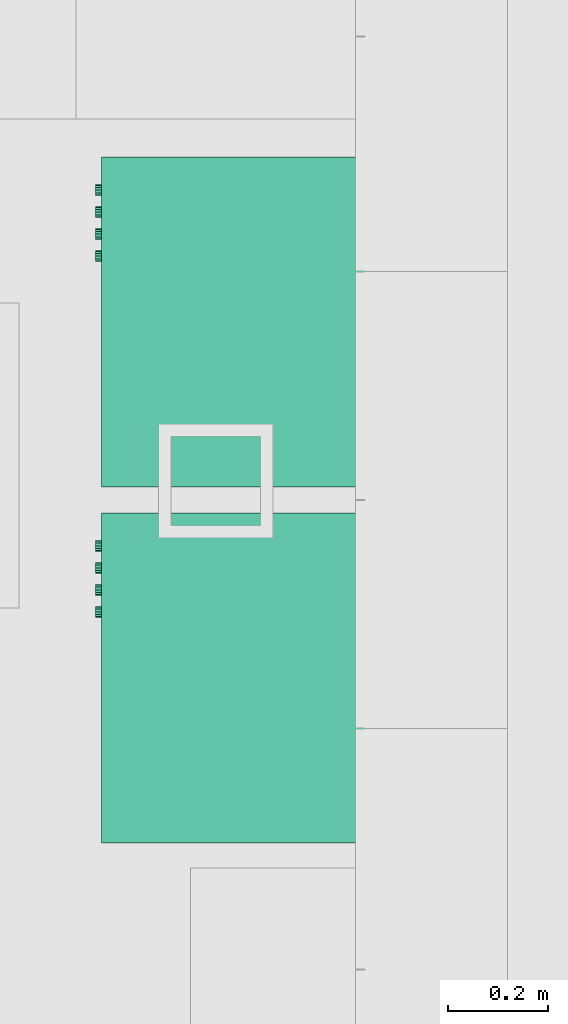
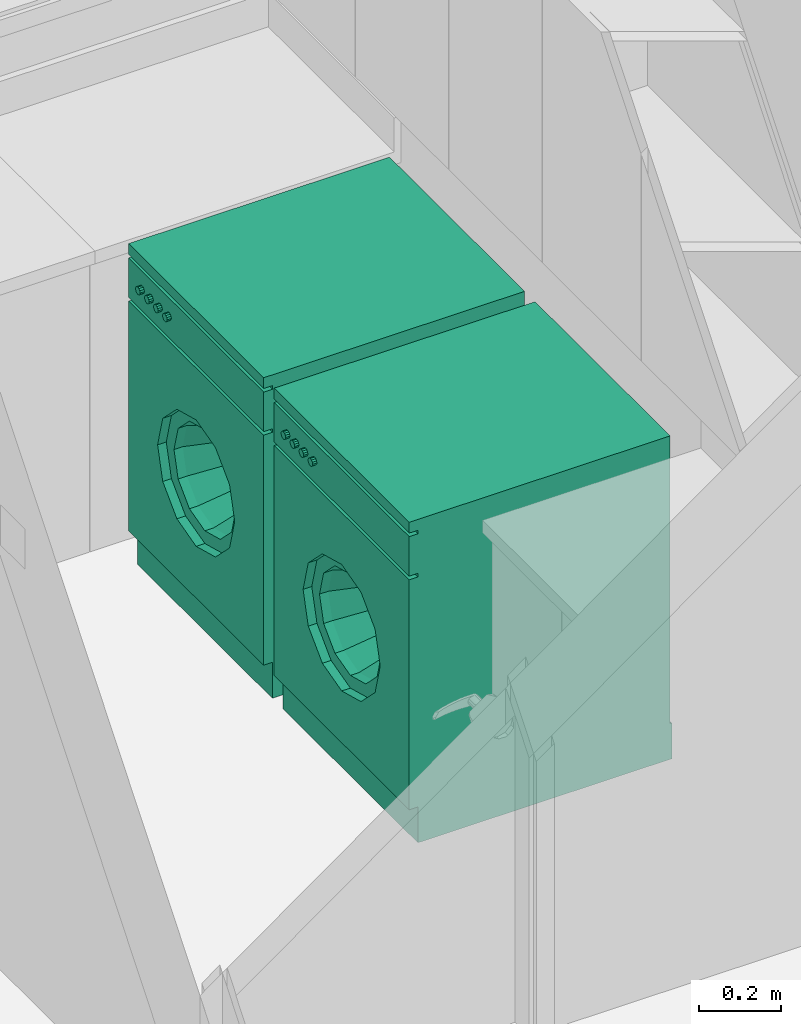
# One storey, part 9 of 103: 2 distribution flow elements.
"""IFC2X3 building model written with IfcOpenShell, lengths in inches."""

import ifcopenshell
import ifcopenshell.guid

model = None  # the IFC model being written
_history = None  # IfcOwnerHistory: only IFC2X3 demands one
_inside = {}  # id of a spatial element -> (the spatial element, [elements in it])
_under = {}  # id of a project, library or spatial element -> (it, [spatial elements below it])
_declared = {}  # id of a project -> (the project, [libraries it declares])
_typed = {}  # id of a type object -> (the type object, [elements of that type])
_made_of = {}  # id of a material, layer set ... -> (it, [elements and type objects made of it])


def new_model(schema):
    """Start an empty IFC model of exactly this schema.

    Asked for "IFC4X3", IfcOpenShell would pick the latest addendum, in which some entities
    have other attributes; the version numbers below select the first issue.
    IFC2X3 requires an IfcOwnerHistory on every rooted entity: one is made here for all.
    """
    global model, _history
    if schema == "IFC4X3":
        model = ifcopenshell.file(schema_version=(4, 3, 0, 0))
    else:
        model = ifcopenshell.file(schema=schema)
    _inside.clear()
    _under.clear()
    _declared.clear()
    _typed.clear()
    _made_of.clear()
    _history = None
    if model.schema == "IFC2X3":
        org = make("IfcOrganization", Name="unknown")
        user = make(
            "IfcPersonAndOrganization",
            ThePerson=make("IfcPerson", FamilyName="unknown"),
            TheOrganization=org,
        )
        app = make(
            "IfcApplication",
            ApplicationDeveloper=org,
            Version="unknown",
            ApplicationFullName="unknown",
            ApplicationIdentifier="unknown",
        )
        _history = make(
            "IfcOwnerHistory",
            OwningUser=user,
            OwningApplication=app,
            ChangeAction="ADDED",
            CreationDate=0,
        )
    return model


def make(cls, **values):
    """One entity of the class cls with the attributes given. An attribute that is None is left unset."""
    return model.create_entity(
        cls, **{name: value for name, value in values.items() if value is not None}
    )


def entity(cls, *values):
    """Any entity or typed value of the class cls, its attributes in the order of the schema. None: left unset."""
    e = model.create_entity(cls)
    for i, value in enumerate(values):
        if value is not None:
            e[i] = value
    return e


def rooted(cls, **values):
    """An entity with a GlobalId (a new one), such as an element, a storey or a relation."""
    return make(cls, GlobalId=ifcopenshell.guid.new(), OwnerHistory=_history, **values)


def si_unit(unit_type, name, prefix=None):
    """IfcSIUnit, for example si_unit("LENGTHUNIT", "METRE", prefix="MILLI")."""
    return make("IfcSIUnit", UnitType=unit_type, Prefix=prefix, Name=name)


def converted_unit(unit_type, name, factor, base, dimensions=None, offset=None):
    """IfcConversionBasedUnit, such as the inch: factor (a typed value) times the base unit."""
    return make(
        "IfcConversionBasedUnit"
        if offset is None
        else "IfcConversionBasedUnitWithOffset",
        ConversionOffset=offset,
        Dimensions=None
        if dimensions is None
        else entity("IfcDimensionalExponents", *dimensions),
        UnitType=unit_type,
        Name=name,
        ConversionFactor=make(
            "IfcMeasureWithUnit", ValueComponent=factor, UnitComponent=base
        ),
    )


def derived_unit(unit_type, elements):
    """IfcDerivedUnit: a product of units, each with its exponent."""
    return make(
        "IfcDerivedUnit",
        Elements=[
            make("IfcDerivedUnitElement", Unit=unit, Exponent=power)
            for unit, power in elements
        ],
        UnitType=unit_type,
    )


def money_unit(currency):
    """IfcMonetaryUnit."""
    return make("IfcMonetaryUnit", Currency=currency)


def assignment(units):
    """IfcUnitAssignment: the units of a project."""
    return None if units is None else make("IfcUnitAssignment", Units=units)


def point(xyz):
    """IfcCartesianPoint."""
    return None if xyz is None else make("IfcCartesianPoint", Coordinates=xyz)


def direction(xyz):
    """IfcDirection."""
    return None if xyz is None else make("IfcDirection", DirectionRatios=xyz)


def frame(location, z_axis=None, x_axis=None):
    """IfcAxis2Placement3D, a coordinate frame: its origin and axes. An axis left out is left unset."""
    return make(
        "IfcAxis2Placement3D",
        Location=point(location),
        Axis=direction(z_axis),
        RefDirection=direction(x_axis),
    )


def origin_with_axes():
    """The frame at (0, 0, 0) with the z axis (0, 0, 1) and the x axis (1, 0, 0) written out."""
    return frame((0.0, 0.0, 0.0), z_axis=(0.0, 0.0, 1.0), x_axis=(1.0, 0.0, 0.0))


def place(relative_to, where):
    """IfcLocalPlacement: puts the frame where relative to a parent placement (None: the world)."""
    return make(
        "IfcLocalPlacement", PlacementRelTo=relative_to, RelativePlacement=where
    )


def context(
    kind, dimensions, precision=None, world=None, true_north=None, identifier=None
):
    """IfcGeometricRepresentationContext, for example the 3D "Model" context."""
    return make(
        "IfcGeometricRepresentationContext",
        ContextIdentifier=identifier,
        ContextType=kind,
        CoordinateSpaceDimension=dimensions,
        Precision=precision,
        WorldCoordinateSystem=world,
        TrueNorth=true_north,
    )


def subcontext(parent, identifier, kind, view, scale=None):
    """IfcGeometricRepresentationSubContext, for example "Body" below "Model"."""
    return make(
        "IfcGeometricRepresentationSubContext",
        ContextIdentifier=identifier,
        ContextType=kind,
        ParentContext=parent,
        TargetScale=scale,
        TargetView=view,
    )


def project(units=None, contexts=None):
    """IfcProject with its units and contexts."""
    return rooted(
        "IfcProject",
        Name="project",
        RepresentationContexts=contexts,
        UnitsInContext=assignment(units),
    )


def spatial(cls, under=None, at=None, **own):
    """A site, building, storey or space (cls), placed at a placement, below another one or the project."""
    s = rooted(cls, ObjectPlacement=at, **own)
    if under is not None:
        _under.setdefault(under.id(), (under, []))[1].append(s)
    return s


def faces_of(points, faces, orient=None, outer=None):
    """IfcFace entities. A face is a list of loops; a loop is a list of indices into points, from 0.

    orient and outer hold one flag for each loop. By default every Orientation is true, the
    first loop of a face is its IfcFaceOuterBound and the others are IfcFaceBound.
    """
    made = []
    for i, loops in enumerate(faces):
        bounds = []
        for j, loop in enumerate(loops):
            is_outer = j == 0 if outer is None else outer[i][j]
            bounds.append(
                make(
                    "IfcFaceOuterBound" if is_outer else "IfcFaceBound",
                    Bound=make("IfcPolyLoop", Polygon=[points[k] for k in loop]),
                    Orientation=True if orient is None else orient[i][j],
                )
            )
        made.append(make("IfcFace", Bounds=bounds))
    return made


def open_shell(faces, orient=None, outer=None):
    """The faces of one IfcOpenShell. surface_model builds it on its shared points."""
    return ("IfcOpenShell", faces, orient, outer)


def faceted_brep(points, faces, orient=None, outer=None, voids=None):
    """IfcFacetedBrep: a solid bounded by flat faces; with voids (closed shells), ...WithVoids."""
    shared = [point(p) for p in points]
    hull = make("IfcClosedShell", CfsFaces=faces_of(shared, faces, orient, outer))
    if voids is None:
        return make("IfcFacetedBrep", Outer=hull)
    return make(
        "IfcFacetedBrepWithVoids",
        Outer=hull,
        Voids=[
            make(cls, CfsFaces=faces_of(shared, fs, o, b)) for cls, fs, o, b in voids
        ],
    )


def surface_model(cls, points, shells):
    """IfcFaceBasedSurfaceModel or IfcShellBasedSurfaceModel (cls): surfaces that need not close."""
    shared = [point(p) for p in points]
    made = [make(c, CfsFaces=faces_of(shared, fs, o, b)) for c, fs, o, b in shells]
    if cls == "IfcFaceBasedSurfaceModel":
        return make(cls, FbsmFaces=made)
    return make(cls, SbsmBoundary=made)


def shape(context_of_items, identifier, shape_type, items):
    """IfcShapeRepresentation: the items that make up one representation, for example the "Body"."""
    return make(
        "IfcShapeRepresentation",
        ContextOfItems=context_of_items,
        RepresentationIdentifier=identifier,
        RepresentationType=shape_type,
        Items=items,
    )


def source(mapping_origin, context_of_items, identifier, shape_type, items):
    """IfcRepresentationMap: a shape defined once, which mapped items show again and again."""
    return make(
        "IfcRepresentationMap",
        MappingOrigin=mapping_origin,
        MappedRepresentation=shape(context_of_items, identifier, shape_type, items),
    )


def transform(
    local_origin,
    x_axis=None,
    y_axis=None,
    z_axis=None,
    scale=None,
    scale2=None,
    scale3=None,
    uniform=True,
):
    """IfcCartesianTransformationOperator3D, or its non-uniform kind. x_axis, y_axis, z_axis: its Axis1, 2, 3."""
    if uniform:
        return make(
            "IfcCartesianTransformationOperator3D",
            Axis1=direction(x_axis),
            Axis2=direction(y_axis),
            LocalOrigin=point(local_origin),
            Scale=scale,
            Axis3=direction(z_axis),
        )
    return make(
        "IfcCartesianTransformationOperator3DnonUniform",
        Axis1=direction(x_axis),
        Axis2=direction(y_axis),
        LocalOrigin=point(local_origin),
        Scale=scale,
        Axis3=direction(z_axis),
        Scale2=scale2,
        Scale3=scale3,
    )


def mapped(mapping_source, mapping_target):
    """IfcMappedItem: shows the shape of a source again, moved by a transform."""
    return make(
        "IfcMappedItem", MappingSource=mapping_source, MappingTarget=mapping_target
    )


def made_of(thing, what):
    """Note that an element or type object is made of a material, layer set ...; save() writes the relation."""
    if what is not None:
        _made_of.setdefault(what.id(), (what, []))[1].append(thing)
    return thing


def type_object(cls, material=None, **own):
    """A type object (cls), such as IfcWallType, which elements share."""
    return made_of(rooted(cls, **own), material)


def element(
    cls,
    number,
    at=None,
    inside=None,
    cuts=None,
    type_object=None,
    material=None,
    context=None,
    identifier="Body",
    shape_type=None,
    held_by="IfcProductDefinitionShape",
    body=None,
    shapes=None,
    **own,
):
    """One element of the class cls, such as IfcWall. Its Tag is "e" and its number.

    at: its placement. inside: the storey or other place that contains it. cuts: it is an
    opening in that element (IfcRelVoidsElement). A single representation is given by context,
    identifier, shape_type and body (its items); several are given by shapes. held_by: the class
    of the entity that holds the representations. save() writes the other relations.
    """
    e = rooted(cls, Tag="e%d" % number, ObjectPlacement=at, **own)
    if body is not None:
        shapes = [shape(context, identifier, shape_type, body)]
    if shapes is not None:
        e.Representation = make(held_by, Representations=shapes)
    if inside is not None:
        _inside.setdefault(inside.id(), (inside, []))[1].append(e)
    if cuts is not None:
        rooted(
            "IfcRelVoidsElement", RelatingBuildingElement=cuts, RelatedOpeningElement=e
        )
    if type_object is not None:
        _typed.setdefault(type_object.id(), (type_object, []))[1].append(e)
    return made_of(e, material)


def aggregate(whole, parts):
    """IfcRelAggregates: a whole, such as a stair, and the parts it consists of."""
    return rooted("IfcRelAggregates", RelatingObject=whole, RelatedObjects=parts)


def save(model, path):
    """Write the relations noted so far, then the file.

    IfcRelAggregates (storeys below a building ...), IfcRelContainedInSpatialStructure (elements
    in a storey), IfcRelDefinesByType, IfcRelAssociatesMaterial and IfcRelDeclares: one each for
    every whole, place, type object, material and project.
    """
    for whole, parts in _under.values():
        aggregate(whole, parts)
    for where, things in _inside.values():
        rooted(
            "IfcRelContainedInSpatialStructure",
            RelatedElements=things,
            RelatingStructure=where,
        )
    for kind, things in _typed.values():
        rooted("IfcRelDefinesByType", RelatedObjects=things, RelatingType=kind)
    for what, things in _made_of.values():
        rooted("IfcRelAssociatesMaterial", RelatedObjects=things, RelatingMaterial=what)
    for by, libraries in _declared.values():
        rooted("IfcRelDeclares", RelatingContext=by, RelatedDefinitions=libraries)
    model.write(path)


model = new_model("IFC2X3")

# Units and contexts
model_context = context("Model", 3, precision=0.00039370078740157, world=origin_with_axes(), true_north=direction((0.0, 1.0)))
plan_context = context("Plan", 3, precision=0.00039370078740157, world=origin_with_axes(), true_north=direction((0.0, 1.0)))
body_context = subcontext(model_context, "Body", "Model", "MODEL_VIEW")
ifc_project = project(units=[converted_unit("LENGTHUNIT", "INCH", entity("IfcPositiveLengthMeasure", 0.0254), si_unit("LENGTHUNIT", "METRE"), dimensions=[1, 0, 0, 0, 0, 0, 0]), converted_unit("AREAUNIT", "SQUARE_FOOT", entity("IfcPositiveLengthMeasure", 0.09290304), si_unit("AREAUNIT", "SQUARE_METRE"), dimensions=[2, 0, 0, 0, 0, 0, 0]), si_unit("PLANEANGLEUNIT", "RADIAN"), si_unit("SOLIDANGLEUNIT", "STERADIAN"), money_unit("USD"), converted_unit("TIMEUNIT", "Year", entity("IfcTimeMeasure", 31557600.0), si_unit("TIMEUNIT", "SECOND"), dimensions=[0, 0, 1, 0, 0, 0, 0]), si_unit("MASSUNIT", "GRAM", prefix="KILO"), si_unit("THERMODYNAMICTEMPERATUREUNIT", "DEGREE_CELSIUS"), si_unit("LUMINOUSINTENSITYUNIT", "LUMEN"), si_unit("ENERGYUNIT", "JOULE", prefix="MEGA"), derived_unit("SPECIFICHEATCAPACITYUNIT", [(si_unit("ENERGYUNIT", "JOULE"), 1), (si_unit("MASSUNIT", "GRAM", prefix="KILO"), -1), (si_unit("THERMODYNAMICTEMPERATUREUNIT", "KELVIN"), -1)])], contexts=[model_context, plan_context])

# Site, building, storey
site_placement = place(None, origin_with_axes())
site = spatial("IfcSite", under=ifc_project, at=site_placement, Name="Site", CompositionType="ELEMENT")
building_placement = place(site_placement, origin_with_axes())
building = spatial("IfcBuilding", under=site, at=building_placement, Name="Building", CompositionType="ELEMENT")
storey_placement = place(building_placement, frame((0.0, 0.0, 127.9999999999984), z_axis=(0.0, 0.0, 1.0), x_axis=(1.0, 0.0, 0.0)))
storey = spatial("IfcBuildingStorey", under=building, at=storey_placement, Name="Second Floor", CompositionType="ELEMENT", Elevation=128.0)

# Distribution flow elements
valve_type = type_object("IfcValveType", Name="Washer", PredefinedType="NOTDEFINED")
shared_shape = source(origin_with_axes(), body_context, "Body", "SurfaceModel", [
    faceted_brep([(-12.99999999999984, -28.03333333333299, 4.22222222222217), (12.99999999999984, -28.03333333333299, 4.22222222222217), (12.99999999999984, -28.99999999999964, 4.22222222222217), (-12.99999999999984, -28.99999999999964, 4.22222222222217), (-12.99999999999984, -28.03333333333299, 31.24444444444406), (12.99999999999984, -28.03333333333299, 31.24444444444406), (7.428571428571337, -28.03333333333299, 17.73333333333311), (6.433331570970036, -28.03333333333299, 21.44761904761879), (3.71428571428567, -28.03333333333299, 24.16666490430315), (0.0, -28.03333333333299, 25.16190476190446), (-3.714285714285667, -28.03333333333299, 24.16666490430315), (-6.433331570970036, -28.03333333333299, 21.44761904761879), (-7.428571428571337, -28.03333333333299, 17.73333333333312), (-6.433331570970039, -28.03333333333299, 14.01904761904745), (-3.714285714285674, -28.03333333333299, 11.30000176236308), (0.0, -28.03333333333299, 10.30476190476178), (3.714285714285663, -28.03333333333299, 11.30000176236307), (6.433331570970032, -28.03333333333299, 14.01904761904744), (12.99999999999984, -28.99999999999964, 31.24444444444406), (-12.99999999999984, -28.99999999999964, 31.24444444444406), (7.428571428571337, -28.99999999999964, 17.73333333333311), (6.433331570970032, -28.99999999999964, 14.01904761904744), (3.714285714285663, -28.99999999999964, 11.30000176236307), (0.0, -28.99999999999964, 10.30476190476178), (-3.714285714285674, -28.99999999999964, 11.30000176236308), (-6.433331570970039, -28.99999999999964, 14.01904761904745), (-7.428571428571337, -28.99999999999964, 17.73333333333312), (-6.433331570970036, -28.99999999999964, 21.44761904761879), (-3.714285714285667, -28.99999999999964, 24.16666490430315), (0.0, -28.99999999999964, 25.16190476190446), (3.71428571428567, -28.99999999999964, 24.16666490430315), (6.433331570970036, -28.99999999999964, 21.44761904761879)], [[[0, 1, 2, 3]], [[0, 4, 5, 1], [6, 7, 8, 9, 10, 11, 12, 13, 14, 15, 16, 17]], [[1, 5, 18, 2]], [[3, 2, 18, 19], [20, 21, 22, 23, 24, 25, 26, 27, 28, 29, 30, 31]], [[4, 0, 3, 19]], [[5, 4, 19, 18]], [[7, 6, 20, 31]], [[8, 7, 31, 30]], [[9, 8, 30, 29]], [[10, 9, 29, 28]], [[11, 10, 28, 27]], [[12, 11, 27, 26]], [[13, 12, 26, 25]], [[14, 13, 25, 24]], [[15, 14, 24, 23]], [[16, 15, 23, 22]], [[17, 16, 22, 21]], [[6, 17, 21, 20]]]),
    faceted_brep([(7.428571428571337, -27.06666666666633, 17.73333333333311), (6.433331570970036, -27.06666666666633, 21.44761904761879), (6.433331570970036, -28.03333333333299, 21.44761904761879), (7.428571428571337, -28.03333333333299, 17.73333333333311), (6.433331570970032, -27.06666666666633, 14.01904761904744), (3.714285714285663, -27.06666666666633, 11.30000176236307), (0.0, -27.06666666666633, 10.30476190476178), (-3.714285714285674, -27.06666666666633, 11.30000176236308), (-6.433331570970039, -27.06666666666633, 14.01904761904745), (-7.428571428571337, -27.06666666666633, 17.73333333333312), (-6.433331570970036, -27.06666666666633, 21.44761904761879), (-3.714285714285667, -27.06666666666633, 24.16666490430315), (0.0, -27.06666666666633, 25.16190476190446), (3.71428571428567, -27.06666666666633, 24.16666490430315), (5.94285714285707, -27.06666666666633, 17.73333333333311), (5.14666525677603, -27.06666666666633, 20.70476190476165), (2.971428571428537, -27.06666666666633, 22.87999859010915), (0.0, -27.06666666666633, 23.67619047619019), (-2.971428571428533, -27.06666666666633, 22.87999859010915), (-5.146665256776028, -27.06666666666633, 20.70476190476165), (-5.94285714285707, -27.06666666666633, 17.73333333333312), (-5.146665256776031, -27.06666666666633, 14.76190476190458), (-2.97142857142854, -27.06666666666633, 12.58666807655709), (0.0, -27.06666666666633, 11.79047619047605), (2.971428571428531, -27.06666666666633, 12.58666807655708), (5.146665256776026, -27.06666666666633, 14.76190476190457), (3.71428571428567, -28.03333333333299, 24.16666490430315), (0.0, -28.03333333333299, 25.16190476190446), (-3.714285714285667, -28.03333333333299, 24.16666490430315), (-6.433331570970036, -28.03333333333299, 21.44761904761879), (-7.428571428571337, -28.03333333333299, 17.73333333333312), (-6.433331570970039, -28.03333333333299, 14.01904761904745), (-3.714285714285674, -28.03333333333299, 11.30000176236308), (0.0, -28.03333333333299, 10.30476190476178), (3.714285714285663, -28.03333333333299, 11.30000176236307), (6.433331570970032, -28.03333333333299, 14.01904761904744), (5.94285714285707, -28.03333333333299, 17.73333333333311), (5.146665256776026, -28.03333333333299, 14.76190476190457), (2.971428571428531, -28.03333333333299, 12.58666807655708), (0.0, -28.03333333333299, 11.79047619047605), (-2.97142857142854, -28.03333333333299, 12.58666807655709), (-5.146665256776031, -28.03333333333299, 14.76190476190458), (-5.94285714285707, -28.03333333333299, 17.73333333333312), (-5.146665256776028, -28.03333333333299, 20.70476190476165), (-2.971428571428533, -28.03333333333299, 22.87999859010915), (0.0, -28.03333333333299, 23.67619047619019), (2.971428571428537, -28.03333333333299, 22.87999859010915), (5.14666525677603, -28.03333333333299, 20.70476190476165)], [[[0, 1, 2, 3]], [[0, 4, 5, 6, 7, 8, 9, 10, 11, 12, 13, 1], [14, 15, 16, 17, 18, 19, 20, 21, 22, 23, 24, 25]], [[1, 13, 26, 2]], [[3, 2, 26, 27, 28, 29, 30, 31, 32, 33, 34, 35], [36, 37, 38, 39, 40, 41, 42, 43, 44, 45, 46, 47]], [[4, 0, 3, 35]], [[5, 4, 35, 34]], [[6, 5, 34, 33]], [[7, 6, 33, 32]], [[8, 7, 32, 31]], [[9, 8, 31, 30]], [[10, 9, 30, 29]], [[11, 10, 29, 28]], [[12, 11, 28, 27]], [[13, 12, 27, 26]], [[15, 14, 36, 47]], [[16, 15, 47, 46]], [[17, 16, 46, 45]], [[18, 17, 45, 44]], [[19, 18, 44, 43]], [[20, 19, 43, 42]], [[21, 20, 42, 41]], [[22, 21, 41, 40]], [[23, 22, 40, 39]], [[24, 23, 39, 38]], [[25, 24, 38, 37]], [[14, 25, 37, 36]]]),
    surface_model("IfcShellBasedSurfaceModel", [(-2.971428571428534, -27.06666666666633, 22.87999859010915), (0.0, -27.06666666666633, 23.67619047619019), (0.0, -22.23333333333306, 22.19047619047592), (-2.228571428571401, -22.23333333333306, 21.59333227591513), (2.971428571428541, -27.06666666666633, 22.87999859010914), (2.228571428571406, -22.23333333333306, 21.59333227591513), (3.859998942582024, -22.23333333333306, 19.96190476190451), (4.457142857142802, -22.23333333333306, 17.73333333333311), (3.859998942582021, -22.23333333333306, 15.50476190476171), (2.228571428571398, -22.23333333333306, 13.87333439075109), (0.0, -22.23333333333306, 13.27619047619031), (-2.228571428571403, -22.23333333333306, 13.8733343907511), (-3.859998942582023, -22.23333333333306, 15.50476190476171), (-4.457142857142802, -22.23333333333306, 17.73333333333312), (-3.859998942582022, -22.23333333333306, 19.96190476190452), (-5.146665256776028, -27.06666666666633, 20.70476190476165), (5.146665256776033, -27.06666666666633, 20.70476190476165), (5.94285714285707, -27.06666666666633, 17.73333333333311), (5.146665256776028, -27.06666666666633, 14.76190476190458), (2.971428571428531, -27.06666666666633, 12.58666807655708), (0.0, -27.06666666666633, 11.79047619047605), (-2.971428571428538, -27.06666666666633, 12.58666807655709), (-5.146665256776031, -27.06666666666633, 14.76190476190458), (-5.94285714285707, -27.06666666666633, 17.73333333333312)], [open_shell([[[0, 1, 2, 3]], [[1, 4, 5, 2]], [[2, 5, 6, 7, 8, 9, 10, 11, 12, 13, 14, 3]], [[15, 0, 3, 14]], [[4, 16, 6, 5]], [[16, 17, 7, 6]], [[17, 18, 8, 7]], [[18, 19, 9, 8]], [[19, 20, 10, 9]], [[20, 21, 11, 10]], [[21, 22, 12, 11]], [[22, 23, 13, 12]], [[23, 15, 14, 13]]])]),
    surface_model("IfcShellBasedSurfaceModel", [(-12.99999999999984, -28.03333333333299, 4.22222222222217), (-12.99999999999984, -28.03333333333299, 36.73333333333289), (-12.99999999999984, 0.0, 36.73333333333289), (-12.99999999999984, 0.0, 4.222222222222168)], [open_shell([[[0, 1, 2, 3]]])]),
    surface_model("IfcShellBasedSurfaceModel", [(12.99999999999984, -28.03333333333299, 4.22222222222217), (12.99999999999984, -28.03333333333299, 36.73333333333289), (12.99999999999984, 0.0, 36.73333333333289), (12.99999999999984, 0.0, 4.222222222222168)], [open_shell([[[0, 1, 2, 3]]])]),
    surface_model("IfcShellBasedSurfaceModel", [(-12.99999999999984, 0.0, 4.22222222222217), (-12.99999999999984, 0.0, 36.73333333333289), (12.99999999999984, 0.0, 36.73333333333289), (12.99999999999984, 0.0, 4.22222222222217)], [open_shell([[[0, 1, 2, 3]]])]),
    faceted_brep([(-12.99999999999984, -28.03333333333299, 0.0), (12.99999999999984, -28.03333333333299, 0.0), (12.99999999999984, -28.03333333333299, 4.22222222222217), (-12.99999999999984, -28.03333333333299, 4.22222222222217), (-12.99999999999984, 0.1792650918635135, 0.0), (12.99999999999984, 0.1792650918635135, 0.0), (12.99999999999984, 0.1792650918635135, 4.22222222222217), (-12.99999999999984, 0.1792650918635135, 4.22222222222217)], [[[0, 1, 2, 3]], [[0, 4, 5, 1]], [[1, 5, 6, 2]], [[3, 2, 6, 7]], [[4, 0, 3, 7]], [[5, 4, 7, 6]]]),
    faceted_brep([(-12.99999999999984, -28.03333333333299, 31.66666666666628), (12.99999999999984, -28.03333333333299, 31.66666666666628), (12.99999999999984, -28.99999999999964, 31.66666666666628), (-12.99999999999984, -28.99999999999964, 31.66666666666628), (-12.99999999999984, -28.03333333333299, 36.31111111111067), (12.99999999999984, -28.03333333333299, 36.31111111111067), (12.99999999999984, -28.99999999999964, 36.31111111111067), (-12.99999999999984, -28.99999999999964, 36.31111111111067)], [[[0, 1, 2, 3]], [[0, 4, 5, 1]], [[1, 5, 6, 2]], [[3, 2, 6, 7]], [[4, 0, 3, 7]], [[5, 4, 7, 6]]]),
    surface_model("IfcShellBasedSurfaceModel", [(-12.99999999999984, -28.03333333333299, 31.24444444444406), (-12.99999999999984, -28.03333333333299, 36.73333333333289), (12.99999999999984, -28.03333333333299, 36.73333333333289), (12.99999999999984, -28.03333333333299, 31.24444444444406)], [open_shell([[[0, 1, 2, 3]]])]),
    faceted_brep([(-12.99999999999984, -28.99999999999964, 36.73333333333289), (12.99999999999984, -28.99999999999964, 36.73333333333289), (12.99999999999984, -28.99999999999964, 37.99999999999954), (-12.99999999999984, -28.99999999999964, 37.99999999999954), (-12.99999999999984, 0.0, 36.73333333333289), (12.99999999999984, 0.0, 36.73333333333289), (12.99999999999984, 0.0, 37.99999999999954), (-12.99999999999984, 0.0, 37.99999999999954)], [[[0, 1, 2, 3]], [[0, 4, 5, 1]], [[1, 5, 6, 2]], [[3, 2, 6, 7]], [[4, 0, 3, 7]], [[5, 4, 7, 6]]]),
    faceted_brep([(-10.02472232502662, -28.99999999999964, 33.98333333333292), (-10.18333333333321, -28.99999999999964, 33.82472232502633), (-10.39999999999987, -28.99999999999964, 33.76666666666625), (-10.61666666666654, -28.99999999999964, 33.82472232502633), (-10.77527767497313, -28.99999999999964, 33.98333333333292), (-10.8333333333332, -28.99999999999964, 34.19999999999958), (-10.77527767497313, -28.99999999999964, 34.41666666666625), (-10.61666666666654, -28.99999999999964, 34.57527767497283), (-10.39999999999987, -28.99999999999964, 34.63333333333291), (-10.18333333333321, -28.99999999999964, 34.57527767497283), (-10.02472232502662, -28.99999999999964, 34.41666666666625), (-9.966666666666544, -28.99999999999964, 34.19999999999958), (-10.02472232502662, -29.48333333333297, 33.98333333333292), (-10.18333333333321, -29.48333333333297, 33.82472232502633), (-10.39999999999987, -29.48333333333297, 33.76666666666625), (-10.61666666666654, -29.48333333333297, 33.82472232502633), (-10.77527767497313, -29.48333333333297, 33.98333333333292), (-10.8333333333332, -29.48333333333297, 34.19999999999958), (-10.77527767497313, -29.48333333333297, 34.41666666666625), (-10.61666666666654, -29.48333333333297, 34.57527767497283), (-10.39999999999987, -29.48333333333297, 34.63333333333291), (-10.18333333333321, -29.48333333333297, 34.57527767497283), (-10.02472232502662, -29.48333333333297, 34.41666666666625), (-9.966666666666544, -29.48333333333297, 34.19999999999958)], [[[0, 1, 2, 3, 4, 5, 6, 7, 8, 9, 10, 11]], [[1, 0, 12, 13]], [[2, 1, 13, 14]], [[3, 2, 14, 15]], [[4, 3, 15, 16]], [[5, 4, 16, 17]], [[6, 5, 17, 18]], [[7, 6, 18, 19]], [[8, 7, 19, 20]], [[9, 8, 20, 21]], [[10, 9, 21, 22]], [[11, 10, 22, 23]], [[0, 11, 23, 12]], [[12, 23, 22, 21, 20, 19, 18, 17, 16, 15, 14, 13]]]),
    faceted_brep([(-8.291388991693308, -28.99999999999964, 33.98333333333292), (-8.449999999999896, -28.99999999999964, 33.82472232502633), (-8.666666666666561, -28.99999999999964, 33.76666666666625), (-8.883333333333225, -28.99999999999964, 33.82472232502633), (-9.041944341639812, -28.99999999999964, 33.98333333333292), (-9.09999999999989, -28.99999999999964, 34.19999999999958), (-9.041944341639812, -28.99999999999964, 34.41666666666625), (-8.883333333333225, -28.99999999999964, 34.57527767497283), (-8.666666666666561, -28.99999999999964, 34.63333333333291), (-8.449999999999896, -28.99999999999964, 34.57527767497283), (-8.291388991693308, -28.99999999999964, 34.41666666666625), (-8.233333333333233, -28.99999999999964, 34.19999999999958), (-8.291388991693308, -29.48333333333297, 33.98333333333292), (-8.449999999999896, -29.48333333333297, 33.82472232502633), (-8.666666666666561, -29.48333333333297, 33.76666666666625), (-8.883333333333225, -29.48333333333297, 33.82472232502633), (-9.041944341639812, -29.48333333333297, 33.98333333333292), (-9.09999999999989, -29.48333333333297, 34.19999999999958), (-9.041944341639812, -29.48333333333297, 34.41666666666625), (-8.883333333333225, -29.48333333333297, 34.57527767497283), (-8.666666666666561, -29.48333333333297, 34.63333333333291), (-8.449999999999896, -29.48333333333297, 34.57527767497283), (-8.291388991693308, -29.48333333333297, 34.41666666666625), (-8.233333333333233, -29.48333333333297, 34.19999999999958)], [[[0, 1, 2, 3, 4, 5, 6, 7, 8, 9, 10, 11]], [[1, 0, 12, 13]], [[2, 1, 13, 14]], [[3, 2, 14, 15]], [[4, 3, 15, 16]], [[5, 4, 16, 17]], [[6, 5, 17, 18]], [[7, 6, 18, 19]], [[8, 7, 19, 20]], [[9, 8, 20, 21]], [[10, 9, 21, 22]], [[11, 10, 22, 23]], [[0, 11, 23, 12]], [[12, 23, 22, 21, 20, 19, 18, 17, 16, 15, 14, 13]]]),
    faceted_brep([(-6.558055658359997, -28.99999999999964, 33.98333333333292), (-6.716666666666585, -28.99999999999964, 33.82472232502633), (-6.933333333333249, -28.99999999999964, 33.76666666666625), (-7.149999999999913, -28.99999999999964, 33.82472232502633), (-7.308611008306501, -28.99999999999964, 33.98333333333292), (-7.366666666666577, -28.99999999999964, 34.19999999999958), (-7.308611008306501, -28.99999999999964, 34.41666666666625), (-7.149999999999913, -28.99999999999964, 34.57527767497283), (-6.933333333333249, -28.99999999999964, 34.63333333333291), (-6.716666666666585, -28.99999999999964, 34.57527767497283), (-6.558055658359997, -28.99999999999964, 34.41666666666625), (-6.499999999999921, -28.99999999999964, 34.19999999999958), (-6.558055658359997, -29.48333333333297, 33.98333333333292), (-6.716666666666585, -29.48333333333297, 33.82472232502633), (-6.933333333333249, -29.48333333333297, 33.76666666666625), (-7.149999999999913, -29.48333333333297, 33.82472232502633), (-7.308611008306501, -29.48333333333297, 33.98333333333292), (-7.366666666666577, -29.48333333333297, 34.19999999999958), (-7.308611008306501, -29.48333333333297, 34.41666666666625), (-7.149999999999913, -29.48333333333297, 34.57527767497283), (-6.933333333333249, -29.48333333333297, 34.63333333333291), (-6.716666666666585, -29.48333333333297, 34.57527767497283), (-6.558055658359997, -29.48333333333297, 34.41666666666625), (-6.499999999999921, -29.48333333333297, 34.19999999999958)], [[[0, 1, 2, 3, 4, 5, 6, 7, 8, 9, 10, 11]], [[1, 0, 12, 13]], [[2, 1, 13, 14]], [[3, 2, 14, 15]], [[4, 3, 15, 16]], [[5, 4, 16, 17]], [[6, 5, 17, 18]], [[7, 6, 18, 19]], [[8, 7, 19, 20]], [[9, 8, 20, 21]], [[10, 9, 21, 22]], [[11, 10, 22, 23]], [[0, 11, 23, 12]], [[12, 23, 22, 21, 20, 19, 18, 17, 16, 15, 14, 13]]]),
    faceted_brep([(-4.824722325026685, -28.99999999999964, 33.98333333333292), (-4.983333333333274, -28.99999999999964, 33.82472232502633), (-5.199999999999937, -28.99999999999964, 33.76666666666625), (-5.416666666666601, -28.99999999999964, 33.82472232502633), (-5.575277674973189, -28.99999999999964, 33.98333333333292), (-5.633333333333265, -28.99999999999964, 34.19999999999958), (-5.575277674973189, -28.99999999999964, 34.41666666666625), (-5.416666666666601, -28.99999999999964, 34.57527767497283), (-5.199999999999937, -28.99999999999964, 34.63333333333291), (-4.983333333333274, -28.99999999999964, 34.57527767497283), (-4.824722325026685, -28.99999999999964, 34.41666666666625), (-4.76666666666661, -28.99999999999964, 34.19999999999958), (-4.824722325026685, -29.48333333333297, 33.98333333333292), (-4.983333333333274, -29.48333333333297, 33.82472232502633), (-5.199999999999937, -29.48333333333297, 33.76666666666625), (-5.416666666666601, -29.48333333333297, 33.82472232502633), (-5.575277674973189, -29.48333333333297, 33.98333333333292), (-5.633333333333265, -29.48333333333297, 34.19999999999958), (-5.575277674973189, -29.48333333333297, 34.41666666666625), (-5.416666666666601, -29.48333333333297, 34.57527767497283), (-5.199999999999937, -29.48333333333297, 34.63333333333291), (-4.983333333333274, -29.48333333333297, 34.57527767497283), (-4.824722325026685, -29.48333333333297, 34.41666666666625), (-4.76666666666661, -29.48333333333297, 34.19999999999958)], [[[0, 1, 2, 3, 4, 5, 6, 7, 8, 9, 10, 11]], [[1, 0, 12, 13]], [[2, 1, 13, 14]], [[3, 2, 14, 15]], [[4, 3, 15, 16]], [[5, 4, 16, 17]], [[6, 5, 17, 18]], [[7, 6, 18, 19]], [[8, 7, 19, 20]], [[9, 8, 20, 21]], [[10, 9, 21, 22]], [[11, 10, 22, 23]], [[0, 11, 23, 12]], [[12, 23, 22, 21, 20, 19, 18, 17, 16, 15, 14, 13]]]),
])
for number, where, z_axis, x_axis, name in (
    (1, (233.9999999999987, 498.9912794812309, 0.0), (0.0, 0.0, 1.0), (0.0, -1.0, 0.0), "FU - 010"),
    (2, (233.9999999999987, 526.9999999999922, 0.0), (0.0, 0.0, 1.0), (0.0, -1.0, 0.0), "FU - 010"),
):
    element("IfcDistributionFlowElement", number, at=place(storey_placement, frame(where, z_axis=z_axis, x_axis=x_axis)), inside=storey, type_object=valve_type, Name=name, context=body_context, shape_type="MappedRepresentation", body=[
        mapped(shared_shape, transform((0.0, 0.0, 0.0))),
    ])

save(model, "model.ifc")
